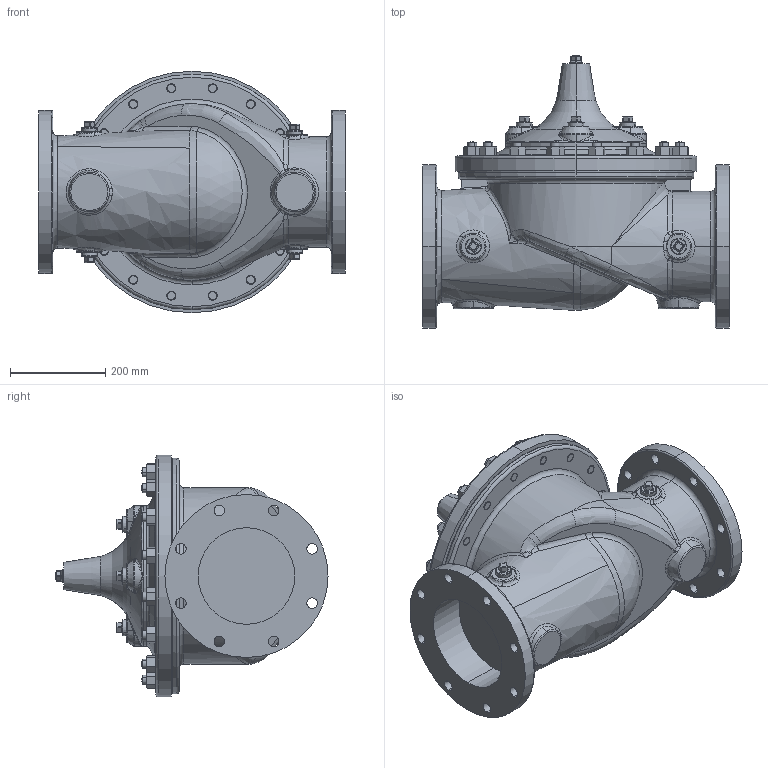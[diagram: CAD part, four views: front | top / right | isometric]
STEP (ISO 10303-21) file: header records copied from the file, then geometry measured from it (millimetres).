
FILE_DESCRIPTION (( 'STEP AP203' ), '1' );
FILE_NAME ('8in Hytrol 150A.STEP', '2016-06-07T21:58:28', ( '' ), ( '' ), 'SwSTEP 2.0', 'SolidWorks 2016', '' );
FILE_SCHEMA (( 'CONFIG_CONTROL_DESIGN' ));
Length unit declared in the file: inch
Products named in the file (7): 8in Hytrol 150A; 8in Body HyGl150A STD_Default 150 FLAT FACE; 8in Cover 100-01_ALUM 4 bosses drld; STUD .750-10 UNC (42883)_3.18  37048G; Hexnut .750-10 UNC (67811)_NUT, HEX HEAVY  67811-18C; .750 NPT PIPE PLUG (67660)_Default STEEL, CAD PL; 1.0 NPT SQ HD PIPE PLUG (67660)_BRASS
Assembly tree (43 placements, depth 2):
  8in Hytrol 150A
    8in Body HyGl150A STD_Default 150 FLAT FACE
    8in Cover 100-01_ALUM 4 bosses drld
    STUD .750-10 UNC (42883)_3.18  37048G  x16
    Hexnut .750-10 UNC (67811)_NUT, HEX HEAVY  67811-18C  x16
    .750 NPT PIPE PLUG (67660)_Default STEEL, CAD PL
    1.0 NPT SQ HD PIPE PLUG (67660)_BRASS  x8
Bounding box: 644.52 x 572.13 x 508 mm (x, y, z)
Volume: 50413308.7 mm3; surface area: 2384695.8 mm2
Topology: 44 solids, 44 shells, 1369 faces, 3104 edges, 1805 vertices
Faces by surface type: cone 407, cylinder 360, plane 261, bspline 151, torus 109, sphere 81
Entity records: 31366 total; most frequent: CARTESIAN_POINT 13664, DIRECTION 3398, ORIENTED_EDGE 3322, EDGE_CURVE 1661, AXIS2_PLACEMENT_3D 1501, VERTEX_POINT 997, CIRCLE 903, EDGE_LOOP 866
